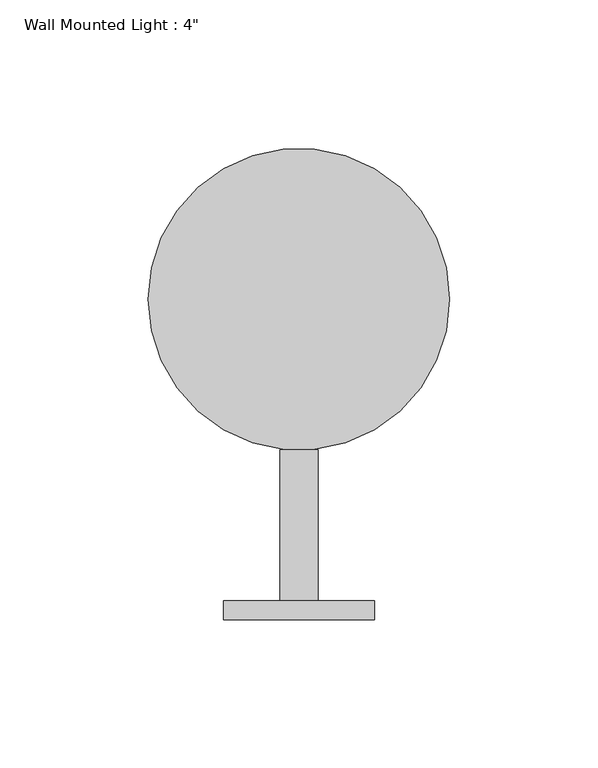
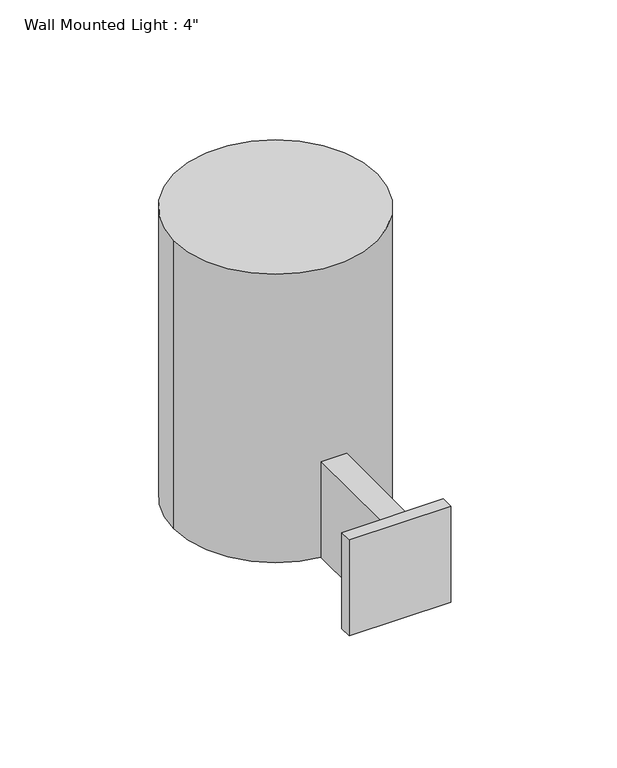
"""IFC4 building model written with IfcOpenShell, lengths in millimetres: light fixture geometry."""

from ifc_helpers import new_model, si_unit, point, frame, frame_2d, origin, place, context, project, spatial, polyline, circle_curve, trimmed, segment, composite_curve, outline, extrude, source, transform, mapped, element, save


def light_fixture_7ac736ae(model_context):
    return source(origin(), model_context, "Body", "SweptSolid", [
        extrude(outline(polyline([(-25.4, 82.55), (25.4, 82.55), (25.4, 76.2), (-25.4, 76.2), (-25.4, 82.55)])), frame((0.0, 0.0, 2133.6), z_axis=(0.0, 0.0, 1.0), x_axis=(1.0, 0.0, 0.0)), (0.0, 0.0, 1.0), 50.8),
        extrude(outline(polyline([(6.35, 133.35), (6.35, 82.55), (-6.35, 82.55), (-6.35, 133.35), (6.35, 133.35)])), frame((0.0, 0.0, 2133.6), z_axis=(0.0, 0.0, 1.0), x_axis=(1.0, 0.0, 0.0)), (0.0, 0.0, 1.0), 50.8),
        extrude(outline(composite_curve([segment(trimmed(circle_curve(frame_2d((0.0, 184.15)), 50.8), [point((-50.8, 184.15))], [point((50.8, 184.15))], False, "CARTESIAN"), True, "CONTINUOUS"), segment(trimmed(circle_curve(frame_2d((0.0, 184.15)), 50.8), [point((50.8, 184.15))], [point((-50.8, 184.15))], False, "CARTESIAN"), True, "CONTINUOUS")], self_intersect=False)), frame((0.0, 0.0, 2133.6), z_axis=(0.0, 0.0, 1.0), x_axis=(1.0, 0.0, 0.0)), (0.0, 0.0, 1.0), 152.4),
    ])


if __name__ == "__main__":
    model = new_model("IFC4")
    model_context = context("Model", 3, world=origin())
    ifc_project = project(units=[si_unit("LENGTHUNIT", "METRE", prefix="MILLI")], contexts=[model_context])
    site = spatial("IfcSite", under=ifc_project)
    building = spatial("IfcBuilding", under=site)
    placement = place(None, origin())
    light_fixture_shape = light_fixture_7ac736ae(model_context)
    element("IfcLightFixture", 1, ObjectType="Wall Mounted Light : 4\"", at=placement, inside=building, context=model_context, shape_type="MappedRepresentation", body=[
        mapped(light_fixture_shape, transform((0.0, 0.0, 0.0), x_axis=(1.0, 0.0, 0.0), y_axis=(0.0, 1.0, 0.0), z_axis=(0.0, 0.0, 1.0))),
    ])
    save(model, "model.ifc")
